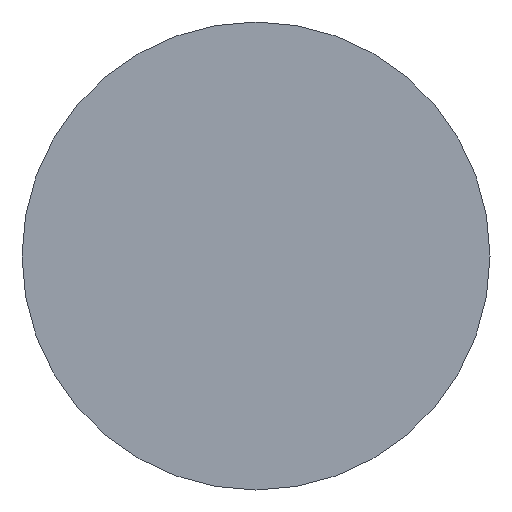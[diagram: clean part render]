
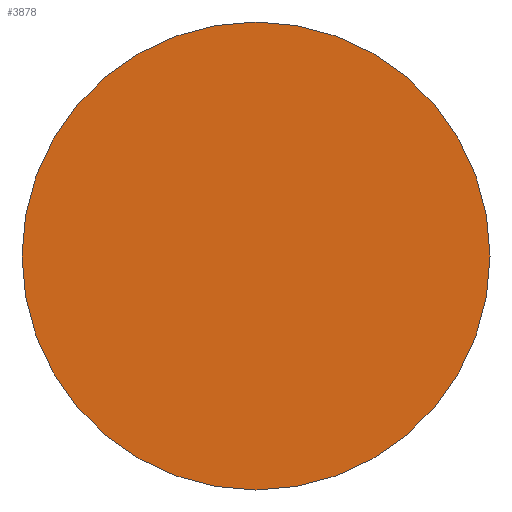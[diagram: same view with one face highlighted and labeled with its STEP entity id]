
A CAD part, left-side view. The second image highlights one B-rep face of the part: STEP entity #3878.
In plain terms, the highlighted planar face has unit normal (-1, 0, 0).
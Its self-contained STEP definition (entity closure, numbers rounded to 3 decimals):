
#344 = ORIENTED_EDGE ( 'NONE', *, *, #6680, .T. ) ;
#647 = DIRECTION ( 'NONE',  ( 0., 0., -1. ) ) ;
#934 = CARTESIAN_POINT ( 'NONE',  ( 0., 0., 9.75 ) ) ;
#1044 = VERTEX_POINT ( 'NONE', #3151 ) ;
#1241 = DIRECTION ( 'NONE',  ( 0., 0., 1. ) ) ;
#1263 = DIRECTION ( 'NONE',  ( 1., 0., 0. ) ) ;
#1713 = AXIS2_PLACEMENT_3D ( 'NONE', #7913, #1263, #647 ) ;
#1858 = CARTESIAN_POINT ( 'NONE',  ( 0., 0., 0. ) ) ;
#2452 = CARTESIAN_POINT ( 'NONE',  ( 0., 0., 0. ) ) ;
#2999 = AXIS2_PLACEMENT_3D ( 'NONE', #2452, #5081, #1241 ) ;
#3151 = CARTESIAN_POINT ( 'NONE',  ( 0., 0., -9.75 ) ) ;
#3174 = FACE_OUTER_BOUND ( 'NONE', #3890, .T. ) ;
#3878 = ADVANCED_FACE ( 'NONE', ( #3174 ), #8223, .F. ) ;
#3890 = EDGE_LOOP ( 'NONE', ( #8341, #344 ) ) ;
#4497 = AXIS2_PLACEMENT_3D ( 'NONE', #1858, #6496, #7681 ) ;
#4646 = CIRCLE ( 'NONE', #4497, 9.75 ) ;
#5081 = DIRECTION ( 'NONE',  ( -1., 0., 0. ) ) ;
#6077 = EDGE_CURVE ( 'NONE', #6537, #1044, #4646, .T. ) ;
#6496 = DIRECTION ( 'NONE',  ( -1., 0., 0. ) ) ;
#6537 = VERTEX_POINT ( 'NONE', #934 ) ;
#6680 = EDGE_CURVE ( 'NONE', #1044, #6537, #7510, .T. ) ;
#7510 = CIRCLE ( 'NONE', #2999, 9.75 ) ;
#7681 = DIRECTION ( 'NONE',  ( 0., 0., 1. ) ) ;
#7913 = CARTESIAN_POINT ( 'NONE',  ( 0., 0., 0. ) ) ;
#8223 = PLANE ( 'NONE',  #1713 ) ;
#8341 = ORIENTED_EDGE ( 'NONE', *, *, #6077, .T. ) ;
